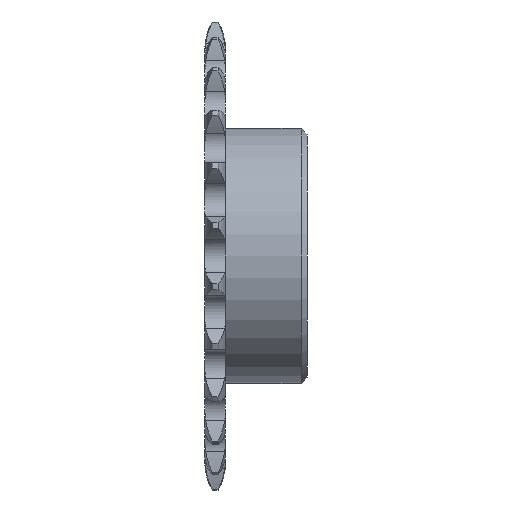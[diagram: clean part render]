
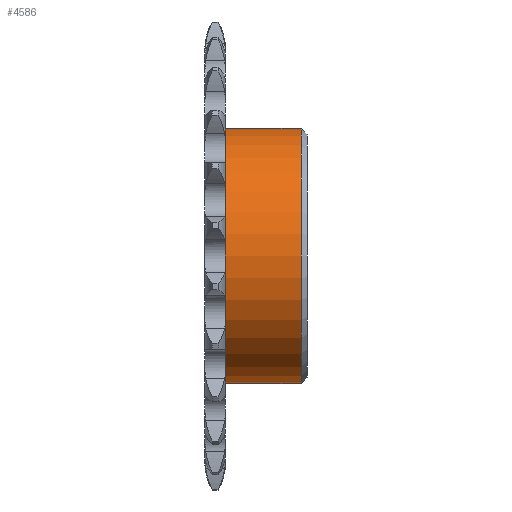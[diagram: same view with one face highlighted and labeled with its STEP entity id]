
A CAD part, front view. The second image highlights one B-rep face of the part: STEP entity #4586.
In plain terms, the highlighted cylindrical face has radius 17.5 mm (diameter 35 mm), a full revolution.
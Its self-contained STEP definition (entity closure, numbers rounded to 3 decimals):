
#402=CYLINDRICAL_SURFACE('',#5083,17.5);
#681=LINE('',#8671,#963);
#963=VECTOR('',#6313,17.5);
#1206=FACE_OUTER_BOUND('',#1455,.T.);
#1455=EDGE_LOOP('',(#4273,#4274,#4275,#4276));
#1691=CIRCLE('',#5082,17.5);
#1692=CIRCLE('',#5084,17.5);
#2162=VERTEX_POINT('',#8666);
#2163=VERTEX_POINT('',#8669);
#2866=EDGE_CURVE('',#2162,#2162,#1691,.T.);
#2867=EDGE_CURVE('',#2163,#2163,#1692,.T.);
#2868=EDGE_CURVE('',#2163,#2162,#681,.T.);
#4273=ORIENTED_EDGE('',*,*,#2867,.F.);
#4274=ORIENTED_EDGE('',*,*,#2868,.T.);
#4275=ORIENTED_EDGE('',*,*,#2866,.T.);
#4276=ORIENTED_EDGE('',*,*,#2868,.F.);
#4586=ADVANCED_FACE('',(#1206),#402,.T.);
#5082=AXIS2_PLACEMENT_3D('',#8667,#6307,#6308);
#5083=AXIS2_PLACEMENT_3D('',#8668,#6309,#6310);
#5084=AXIS2_PLACEMENT_3D('',#8670,#6311,#6312);
#6307=DIRECTION('center_axis',(1.,0.,0.));
#6308=DIRECTION('ref_axis',(0.,0.,-1.));
#6309=DIRECTION('center_axis',(1.,0.,0.));
#6310=DIRECTION('ref_axis',(0.,1.,0.));
#6311=DIRECTION('center_axis',(1.,0.,0.));
#6312=DIRECTION('ref_axis',(0.,0.,-1.));
#6313=DIRECTION('',(-1.,0.,0.));
#8666=CARTESIAN_POINT('',(2.8,-17.5,0.));
#8667=CARTESIAN_POINT('Origin',(2.8,0.,0.));
#8668=CARTESIAN_POINT('Origin',(8.,0.,0.));
#8669=CARTESIAN_POINT('',(13.2,-17.5,0.));
#8670=CARTESIAN_POINT('Origin',(13.2,0.,0.));
#8671=CARTESIAN_POINT('',(8.,-17.5,0.));
